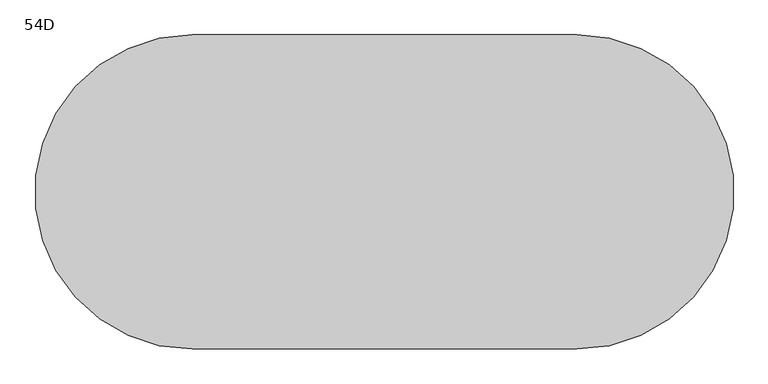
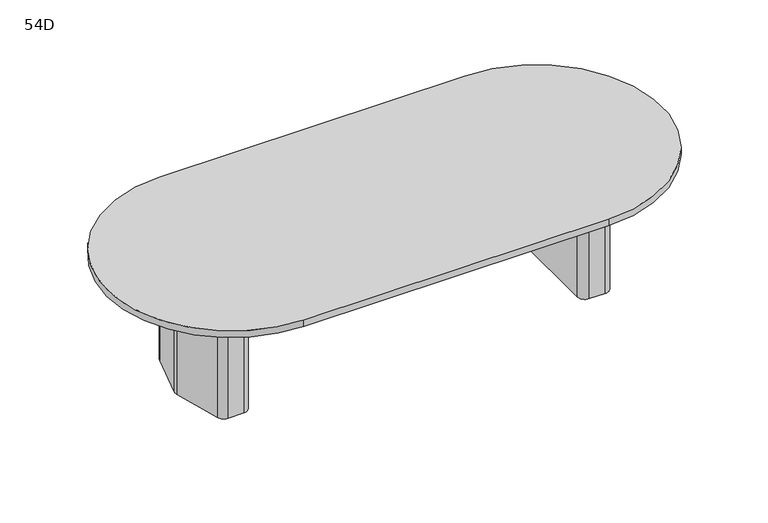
"""IFC4 building model written with IfcOpenShell, lengths in millimetres: furniture geometry, Coalesse_AM_Table_Conference_ETable2_Racetrack_10ft_TwoBase : 54D."""

from ifc_helpers import new_model, si_unit, point, frame, frame_2d, origin, place, context, project, spatial, polyline, circle_curve, trimmed, segment, composite_curve, outline, extrude, source, transform, mapped, element, save
from ifc_brep_helpers import plane_surface, cylinder_surface, revolved_surface, advanced_brep


def furniture_54d_fd6d85c3(model_context):
    return source(origin(), model_context, "Body", "SolidModel", [
        advanced_brep(
        [(1078.124548, 274.2093613, 698.5), (1038.2579246, 304.8, 698.5), (949.325, 304.8, 698.5), (908.05, 263.525, 698.5), (908.05, -263.525, 698.5), (949.325, -304.8, 698.5), (1038.2579246, -304.8, 698.5), (1078.124548, -274.2093613, 698.5), (1148.7503901, -10.6333708, 698.5), (1148.7503901, 10.6333708, 698.5), (946.15, -206.375, 698.5), (946.15, 206.375, 698.5), (971.55, 231.775, 698.5), (1030.5608422, 231.775, 698.5), (1055.095338, 212.9490792, 698.5), (1093.7875, 68.54974, 698.5), (1093.7875, -68.54974, 698.5), (1055.095338, -212.9490792, 698.5), (1030.5608422, -231.775, 698.5), (971.55, -231.775, 698.5), (1078.124548, 274.2093613, 3.175), (1148.7503901, 10.6333708, 3.175), (1148.7503901, -10.6333708, 3.175), (1078.124548, -274.2093613, 3.175), (1038.2579246, -304.8, 3.175), (949.325, -304.8, 3.175), (908.05, -263.525, 3.175), (908.05, 263.525, 3.175), (949.325, 304.8, 3.175), (1038.2579246, 304.8, 3.175), (1067.3625859, 216.2361187, 3.175), (1030.5608422, 244.475, 3.175), (971.55, 244.475, 3.175), (933.45, 206.375, 3.175), (933.45, -206.375, 3.175), (971.55, -244.475, 3.175), (1030.5608422, -244.475, 3.175), (1067.3625859, -216.2361187, 3.175), (1106.4875, -70.2217466, 3.175), (1106.4875, 70.2217466, 3.175), (971.55, -231.775, 3.175), (946.15, -206.375, 3.175), (1030.5608422, -231.775, 3.175), (1055.095338, -212.9490792, 3.175), (1093.7875, -68.54974, 3.175), (1093.7875, 68.54974, 3.175), (1055.095338, 212.9490792, 3.175), (1030.5608422, 231.775, 3.175), (971.55, 231.775, 3.175), (946.15, 206.375, 3.175), (1067.3625859, 216.2361187, 0.0), (1106.4875, 70.2217466, 0.0), (1106.4875, -70.2217466, 0.0), (1067.3625859, -216.2361187, 0.0), (1030.5608422, -244.475, 0.0), (971.55, -244.475, 0.0), (933.45, -206.375, 0.0), (933.45, 206.375, 0.0), (971.55, 244.475, 0.0), (1030.5608422, 244.475, 0.0)],
        [
            (0, 1, circle_curve(frame((1038.2579246, 263.5270004, 698.5), z_axis=(0.0, 0.0, 1.0), x_axis=(-1.0, 0.0, 0.0)), 41.2729996)),
            (1, 2),
            (2, 3, circle_curve(frame((949.325, 263.525, 698.5), z_axis=(0.0, 0.0, 1.0), x_axis=(-1.0, 0.0, 0.0)), 41.275)),
            (3, 4),
            (4, 5, circle_curve(frame((949.325, -263.525, 698.5), z_axis=(0.0, 0.0, 1.0), x_axis=(-1.0, 0.0, 0.0)), 41.275)),
            (5, 6),
            (6, 7, circle_curve(frame((1038.2579246, -263.5270004, 698.5), z_axis=(0.0, 0.0, 1.0), x_axis=(-1.0, 0.0, 0.0)), 41.2729996)),
            (7, 8),
            (8, 9, circle_curve(frame((1109.0665979, 0.0, 698.5), z_axis=(0.0, 0.0, 1.0), x_axis=(-1.0, 0.0, 0.0)), 41.0837187)),
            (9, 0),
            (10, 11),
            (11, 12, circle_curve(frame((971.55, 206.375, 698.5), z_axis=(0.0, 0.0, -1.0), x_axis=(-1.0, 0.0, 0.0)), 25.4)),
            (12, 13),
            (13, 14, circle_curve(frame((1030.5608422, 206.375, 698.5), z_axis=(0.0, 0.0, -1.0), x_axis=(-1.0, 0.0, 0.0)), 25.4)),
            (14, 15),
            (15, 16),
            (16, 17),
            (17, 18, circle_curve(frame((1030.5608422, -206.375, 698.5), z_axis=(0.0, 0.0, -1.0), x_axis=(-1.0, 0.0, 0.0)), 25.4)),
            (18, 19),
            (19, 10, circle_curve(frame((971.55, -206.375, 698.5), z_axis=(0.0, 0.0, -1.0), x_axis=(-1.0, 0.0, 0.0)), 25.4)),
            (20, 21),
            (21, 22, circle_curve(frame((1109.0665979, 0.0, 3.175), z_axis=(0.0, 0.0, -1.0), x_axis=(-1.0, 0.0, 0.0)), 41.0837187)),
            (22, 23),
            (23, 24, circle_curve(frame((1038.2579246, -263.5270004, 3.175), z_axis=(0.0, 0.0, -1.0), x_axis=(-1.0, 0.0, 0.0)), 41.2729996)),
            (24, 25),
            (25, 26, circle_curve(frame((949.325, -263.525, 3.175), z_axis=(0.0, 0.0, -1.0), x_axis=(-1.0, 0.0, 0.0)), 41.275)),
            (26, 27),
            (27, 28, circle_curve(frame((949.325, 263.525, 3.175), z_axis=(0.0, 0.0, -1.0), x_axis=(-1.0, 0.0, 0.0)), 41.275)),
            (28, 29),
            (29, 20, circle_curve(frame((1038.2579246, 263.5270004, 3.175), z_axis=(0.0, 0.0, -1.0), x_axis=(-1.0, 0.0, 0.0)), 41.2729996)),
            (30, 31, circle_curve(frame((1030.5608422, 206.375, 3.175), z_axis=(0.0, 0.0, 1.0), x_axis=(-1.0, 0.0, 0.0)), 38.1)),
            (31, 32),
            (32, 33, circle_curve(frame((971.55, 206.375, 3.175), z_axis=(0.0, 0.0, 1.0), x_axis=(-1.0, 0.0, 0.0)), 38.1)),
            (33, 34),
            (34, 35, circle_curve(frame((971.55, -206.375, 3.175), z_axis=(0.0, 0.0, 1.0), x_axis=(-1.0, 0.0, 0.0)), 38.1)),
            (35, 36),
            (36, 37, circle_curve(frame((1030.5608422, -206.375, 3.175), z_axis=(0.0, 0.0, 1.0), x_axis=(-1.0, 0.0, 0.0)), 38.1)),
            (37, 38),
            (38, 39),
            (39, 30),
            (9, 21),
            (20, 0),
            (8, 22),
            (7, 23),
            (6, 24),
            (5, 25),
            (4, 26),
            (3, 27),
            (2, 28),
            (1, 29),
            (19, 40),
            (40, 41, circle_curve(frame((971.55, -206.375, 3.175), z_axis=(0.0, 0.0, -1.0), x_axis=(-1.0, 0.0, 0.0)), 25.4)),
            (41, 10),
            (18, 42),
            (42, 40),
            (17, 43),
            (43, 42, circle_curve(frame((1030.5608422, -206.375, 3.175), z_axis=(0.0, 0.0, -1.0), x_axis=(-1.0, 0.0, 0.0)), 25.4)),
            (16, 44),
            (44, 43),
            (15, 45),
            (45, 44),
            (14, 46),
            (46, 45),
            (13, 47),
            (47, 46, circle_curve(frame((1030.5608422, 206.375, 3.175), z_axis=(0.0, 0.0, -1.0), x_axis=(-1.0, 0.0, 0.0)), 25.4)),
            (12, 48),
            (48, 47),
            (11, 49),
            (49, 48, circle_curve(frame((971.55, 206.375, 3.175), z_axis=(0.0, 0.0, -1.0), x_axis=(-1.0, 0.0, 0.0)), 25.4)),
            (41, 49),
            (50, 51),
            (51, 52),
            (52, 53),
            (53, 54, circle_curve(frame((1030.5608422, -206.375, 0.0), z_axis=(0.0, 0.0, -1.0), x_axis=(-1.0, 0.0, 0.0)), 38.1)),
            (54, 55),
            (55, 56, circle_curve(frame((971.55, -206.375, 0.0), z_axis=(0.0, 0.0, -1.0), x_axis=(-1.0, 0.0, 0.0)), 38.1)),
            (56, 57),
            (57, 58, circle_curve(frame((971.55, 206.375, 0.0), z_axis=(0.0, 0.0, -1.0), x_axis=(-1.0, 0.0, 0.0)), 38.1)),
            (58, 59),
            (59, 50, circle_curve(frame((1030.5608422, 206.375, 0.0), z_axis=(0.0, 0.0, -1.0), x_axis=(-1.0, 0.0, 0.0)), 38.1)),
            (50, 30),
            (39, 51),
            (38, 52),
            (37, 53),
            (36, 54),
            (35, 55),
            (34, 56),
            (33, 57),
            (32, 58),
            (31, 59),
        ],
        [
            plane_surface(frame((1148.7374275, 10.6817473, 698.5), z_axis=(0.0, 0.0, 1.0000000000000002), x_axis=(0.25882201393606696, -0.9659250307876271, 0.0))),
            plane_surface(frame((1148.7374275, 10.6817473, 3.175), z_axis=(0.0, 0.0, -1.0000000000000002), x_axis=(-0.25882201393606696, 0.9659250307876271, 0.0))),
            plane_surface(frame((1078.124548, 274.2093613, 698.5), z_axis=(0.9659250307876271, 0.25882201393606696, 0.0), x_axis=(0.0, 0.0, -1.0))),
            cylinder_surface(frame((1109.0665979, 0.0, 3.175), z_axis=(0.0, 0.0, 1.0), x_axis=(-1.0, 0.0, 0.0)), 41.0837187),
            plane_surface(frame((1148.7503901, -10.6333708, 698.5), z_axis=(0.9659250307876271, -0.2588220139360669, 0.0), x_axis=(0.0, 0.0, -1.0))),
            cylinder_surface(frame((1038.2579246, -263.5270004, 3.175), z_axis=(0.0, 0.0, 1.0), x_axis=(-1.0, 0.0, 0.0)), 41.2729996),
            plane_surface(frame((1038.2579246, -304.8, 698.5), z_axis=(0.0, -1.0, 0.0), x_axis=(0.0, 0.0, -1.0))),
            cylinder_surface(frame((949.325, -263.525, 3.175), z_axis=(0.0, 0.0, 1.0), x_axis=(-1.0, 0.0, 0.0)), 41.275),
            plane_surface(frame((908.05, -263.525, 698.5), z_axis=(-1.0, 0.0, 0.0), x_axis=(0.0, 0.0, -1.0))),
            cylinder_surface(frame((949.325, 263.525, 3.175), z_axis=(0.0, 0.0, 1.0), x_axis=(-1.0, 0.0, 0.0)), 41.275),
            plane_surface(frame((949.325, 304.8, 698.5), z_axis=(0.0, 1.0, 0.0), x_axis=(0.0, 0.0, -1.0))),
            cylinder_surface(frame((1038.2579246, 263.5270004, 3.175), z_axis=(0.0, 0.0, 1.0), x_axis=(-1.0, 0.0, 0.0)), 41.2729996),
            revolved_surface(polyline([(946.15, -206.375, 3.175), (946.15, -206.375, 698.5)]), (971.55, -206.375, 0.0), (0.0, 0.0, -1.0)),
            plane_surface(frame((971.55, -231.775, 698.5), z_axis=(0.0, 1.0, 0.0), x_axis=(0.0, 0.0, -1.0))),
            revolved_surface(polyline([(1005.1608422, -206.375, 3.175), (1005.1608422, -206.375, 698.5)]), (1030.5608422, -206.375, 0.0), (0.0, 0.0, -1.0)),
            plane_surface(frame((1055.095338, -212.9490792, 698.5), z_axis=(-0.9659250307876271, 0.2588220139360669, 0.0), x_axis=(0.0, 0.0, -1.0))),
            plane_surface(frame((1093.7875, -68.54974, 698.5), z_axis=(-1.0, 0.0, 0.0), x_axis=(0.0, 0.0, -1.0))),
            plane_surface(frame((1093.7875, 68.54974, 698.5), z_axis=(-0.9659250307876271, -0.25882201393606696, 0.0), x_axis=(0.0, 0.0, -1.0))),
            revolved_surface(polyline([(1005.1608422, 206.375, 3.175), (1005.1608422, 206.375, 698.5)]), (1030.5608422, 206.375, 0.0), (0.0, 0.0, -1.0)),
            plane_surface(frame((1030.5608422, 231.775, 698.5), z_axis=(0.0, -1.0, 0.0), x_axis=(0.0, 0.0, -1.0))),
            revolved_surface(polyline([(946.15, 206.375, 3.175), (946.15, 206.375, 698.5)]), (971.55, 206.375, 0.0), (0.0, 0.0, -1.0)),
            plane_surface(frame((946.15, 206.375, 698.5), z_axis=(1.0, 0.0, 0.0), x_axis=(0.0, 0.0, -1.0))),
            plane_surface(frame((1106.0547479, 71.8367796, 3.175), z_axis=(0.0, 0.0, 1.0), x_axis=(0.25882201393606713, -0.965925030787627, 0.0))),
            plane_surface(frame((1106.0547479, 71.8367796, 0.0), z_axis=(0.0, 0.0, -1.0), x_axis=(-0.25882201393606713, 0.965925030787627, 0.0))),
            plane_surface(frame((1067.3625859, 216.2361187, 3.175), z_axis=(0.965925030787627, 0.25882201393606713, 0.0), x_axis=(0.0, 0.0, -1.0))),
            plane_surface(frame((1106.4875, 70.2217466, 3.175), z_axis=(1.0, 0.0, 0.0), x_axis=(0.0, 0.0, -1.0))),
            plane_surface(frame((1106.4875, -70.2217466, 3.175), z_axis=(0.9659250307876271, -0.2588220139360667, 0.0), x_axis=(0.0, 0.0, -1.0))),
            cylinder_surface(frame((1030.5608422, -206.375, 0.0), z_axis=(0.0, 0.0, 1.0), x_axis=(-1.0, 0.0, 0.0)), 38.1),
            plane_surface(frame((1030.5608422, -244.475, 3.175), z_axis=(0.0, -1.0, 0.0), x_axis=(0.0, 0.0, -1.0))),
            cylinder_surface(frame((971.55, -206.375, 0.0), z_axis=(0.0, 0.0, 1.0), x_axis=(-1.0, 0.0, 0.0)), 38.1),
            plane_surface(frame((933.45, -206.375, 3.175), z_axis=(-1.0, 0.0, 0.0), x_axis=(0.0, 0.0, -1.0))),
            cylinder_surface(frame((971.55, 206.375, 0.0), z_axis=(0.0, 0.0, 1.0), x_axis=(-1.0, 0.0, 0.0)), 38.1),
            plane_surface(frame((971.55, 244.475, 3.175), z_axis=(0.0, 1.0, 0.0), x_axis=(0.0, 0.0, -1.0))),
            cylinder_surface(frame((1030.5608422, 206.375, 0.0), z_axis=(0.0, 0.0, 1.0), x_axis=(-1.0, 0.0, 0.0)), 38.1),
        ],
        [
            (0, [[1, 2, 3, 4, 5, 6, 7, 8, 9, 10], [11, 12, 13, 14, 15, 16, 17, 18, 19, 20]]),
            (1, [[21, 22, 23, 24, 25, 26, 27, 28, 29, 30], [31, 32, 33, 34, 35, 36, 37, 38, 39, 40]]),
            (2, [[41, -21, 42, -10]]),
            (3, [[43, -22, -41, -9]]),
            (4, [[44, -23, -43, -8]]),
            (5, [[45, -24, -44, -7]]),
            (6, [[46, -25, -45, -6]]),
            (7, [[47, -26, -46, -5]]),
            (8, [[48, -27, -47, -4]]),
            (9, [[49, -28, -48, -3]]),
            (10, [[50, -29, -49, -2]]),
            (11, [[-42, -30, -50, -1]]),
            (12, [[51, 52, 53, -20]]),
            (13, [[54, 55, -51, -19]]),
            (14, [[56, 57, -54, -18]]),
            (15, [[58, 59, -56, -17]]),
            (16, [[60, 61, -58, -16]]),
            (17, [[62, 63, -60, -15]]),
            (18, [[64, 65, -62, -14]]),
            (19, [[66, 67, -64, -13]]),
            (20, [[68, 69, -66, -12]]),
            (21, [[-53, 70, -68, -11]]),
            (22, [[-55, -57, -59, -61, -63, -65, -67, -69, -70, -52]]),
            (23, [[71, 72, 73, 74, 75, 76, 77, 78, 79, 80]]),
            (24, [[81, -40, 82, -71]]),
            (25, [[-82, -39, 83, -72]]),
            (26, [[-83, -38, 84, -73]]),
            (27, [[-84, -37, 85, -74]]),
            (28, [[-85, -36, 86, -75]]),
            (29, [[-86, -35, 87, -76]]),
            (30, [[-87, -34, 88, -77]]),
            (31, [[-88, -33, 89, -78]]),
            (32, [[-89, -32, 90, -79]]),
            (33, [[-90, -31, -81, -80]]),
        ],
    ),
        advanced_brep(
        [(-1076.537048, 274.2093613, 698.5), (-1147.1628901, 10.6333708, 698.5), (-1147.1628901, -10.6333708, 698.5), (-1076.537048, -274.2093613, 698.5), (-1036.6704246, -304.8, 698.5), (-947.7375, -304.8, 698.5), (-906.4625, -263.525, 698.5), (-906.4625, 263.525, 698.5), (-947.7375, 304.8, 698.5), (-1036.6704246, 304.8, 698.5), (-944.5625, -206.375, 698.5), (-969.9625, -231.775, 698.5), (-1028.9733422, -231.775, 698.5), (-1053.507838, -212.9490792, 698.5), (-1092.2, -68.54974, 698.5), (-1092.2, 68.54974, 698.5), (-1053.507838, 212.9490792, 698.5), (-1028.9733422, 231.775, 698.5), (-969.9625, 231.775, 698.5), (-944.5625, 206.375, 698.5), (-1076.537048, 274.2093613, 3.175), (-1036.6704246, 304.8, 3.175), (-947.7375, 304.8, 3.175), (-906.4625, 263.525, 3.175), (-906.4625, -263.525, 3.175), (-947.7375, -304.8, 3.175), (-1036.6704246, -304.8, 3.175), (-1076.537048, -274.2093613, 3.175), (-1147.1628901, -10.6333708, 3.175), (-1147.1628901, 10.6333708, 3.175), (-1065.7750859, 216.2361187, 3.175), (-1104.9, 70.2217466, 3.175), (-1104.9, -70.2217466, 3.175), (-1065.7750859, -216.2361187, 3.175), (-1028.9733422, -244.475, 3.175), (-969.9625, -244.475, 3.175), (-931.8625, -206.375, 3.175), (-931.8625, 206.375, 3.175), (-969.9625, 244.475, 3.175), (-1028.9733422, 244.475, 3.175), (-944.5625, -206.375, 3.175), (-969.9625, -231.775, 3.175), (-1028.9733422, -231.775, 3.175), (-1053.507838, -212.9490792, 3.175), (-1092.2, -68.54974, 3.175), (-1092.2, 68.54974, 3.175), (-1053.507838, 212.9490792, 3.175), (-1028.9733422, 231.775, 3.175), (-969.9625, 231.775, 3.175), (-944.5625, 206.375, 3.175), (-1065.7750859, 216.2361187, 0.0), (-1028.9733422, 244.475, 0.0), (-969.9625, 244.475, 0.0), (-931.8625, 206.375, 0.0), (-931.8625, -206.375, 0.0), (-969.9625, -244.475, 0.0), (-1028.9733422, -244.475, 0.0), (-1065.7750859, -216.2361187, 0.0), (-1104.9, -70.2217466, 0.0), (-1104.9, 70.2217466, 0.0)],
        [
            (0, 1),
            (1, 2, circle_curve(frame((-1107.4790979, 0.0, 698.5), z_axis=(0.0, 0.0, 1.0), x_axis=(1.0, 0.0, 0.0)), 41.0837187)),
            (2, 3),
            (3, 4, circle_curve(frame((-1036.6704246, -263.5270004, 698.5), z_axis=(0.0, 0.0, 1.0), x_axis=(1.0, 0.0, 0.0)), 41.2729996)),
            (4, 5),
            (5, 6, circle_curve(frame((-947.7375, -263.525, 698.5), z_axis=(0.0, 0.0, 1.0), x_axis=(1.0, 0.0, 0.0)), 41.275)),
            (6, 7),
            (7, 8, circle_curve(frame((-947.7375, 263.525, 698.5), z_axis=(0.0, 0.0, 1.0), x_axis=(1.0, 0.0, 0.0)), 41.275)),
            (8, 9),
            (9, 0, circle_curve(frame((-1036.6704246, 263.5270004, 698.5), z_axis=(0.0, 0.0, 1.0), x_axis=(1.0, 0.0, 0.0)), 41.2729996)),
            (10, 11, circle_curve(frame((-969.9625, -206.375, 698.5), z_axis=(0.0, 0.0, -1.0), x_axis=(1.0, 0.0, 0.0)), 25.4)),
            (11, 12),
            (12, 13, circle_curve(frame((-1028.9733422, -206.375, 698.5), z_axis=(0.0, 0.0, -1.0), x_axis=(1.0, 0.0, 0.0)), 25.4)),
            (13, 14),
            (14, 15),
            (15, 16),
            (16, 17, circle_curve(frame((-1028.9733422, 206.375, 698.5), z_axis=(0.0, 0.0, -1.0), x_axis=(1.0, 0.0, 0.0)), 25.4)),
            (17, 18),
            (18, 19, circle_curve(frame((-969.9625, 206.375, 698.5), z_axis=(0.0, 0.0, -1.0), x_axis=(1.0, 0.0, 0.0)), 25.4)),
            (19, 10),
            (20, 21, circle_curve(frame((-1036.6704246, 263.5270004, 3.175), z_axis=(0.0, 0.0, -1.0), x_axis=(1.0, 0.0, 0.0)), 41.2729996)),
            (21, 22),
            (22, 23, circle_curve(frame((-947.7375, 263.525, 3.175), z_axis=(0.0, 0.0, -1.0), x_axis=(1.0, 0.0, 0.0)), 41.275)),
            (23, 24),
            (24, 25, circle_curve(frame((-947.7375, -263.525, 3.175), z_axis=(0.0, 0.0, -1.0), x_axis=(1.0, 0.0, 0.0)), 41.275)),
            (25, 26),
            (26, 27, circle_curve(frame((-1036.6704246, -263.5270004, 3.175), z_axis=(0.0, 0.0, -1.0), x_axis=(1.0, 0.0, 0.0)), 41.2729996)),
            (27, 28),
            (28, 29, circle_curve(frame((-1107.4790979, 0.0, 3.175), z_axis=(0.0, 0.0, -1.0), x_axis=(1.0, 0.0, 0.0)), 41.0837187)),
            (29, 20),
            (30, 31),
            (31, 32),
            (32, 33),
            (33, 34, circle_curve(frame((-1028.9733422, -206.375, 3.175), z_axis=(0.0, 0.0, 1.0), x_axis=(1.0, 0.0, 0.0)), 38.1)),
            (34, 35),
            (35, 36, circle_curve(frame((-969.9625, -206.375, 3.175), z_axis=(0.0, 0.0, 1.0), x_axis=(1.0, 0.0, 0.0)), 38.1)),
            (36, 37),
            (37, 38, circle_curve(frame((-969.9625, 206.375, 3.175), z_axis=(0.0, 0.0, 1.0), x_axis=(1.0, 0.0, 0.0)), 38.1)),
            (38, 39),
            (39, 30, circle_curve(frame((-1028.9733422, 206.375, 3.175), z_axis=(0.0, 0.0, 1.0), x_axis=(1.0, 0.0, 0.0)), 38.1)),
            (0, 20),
            (29, 1),
            (28, 2),
            (27, 3),
            (26, 4),
            (25, 5),
            (24, 6),
            (23, 7),
            (22, 8),
            (21, 9),
            (10, 40),
            (40, 41, circle_curve(frame((-969.9625, -206.375, 3.175), z_axis=(0.0, 0.0, -1.0), x_axis=(1.0, 0.0, 0.0)), 25.4)),
            (41, 11),
            (41, 42),
            (42, 12),
            (42, 43, circle_curve(frame((-1028.9733422, -206.375, 3.175), z_axis=(0.0, 0.0, -1.0), x_axis=(1.0, 0.0, 0.0)), 25.4)),
            (43, 13),
            (43, 44),
            (44, 14),
            (44, 45),
            (45, 15),
            (45, 46),
            (46, 16),
            (46, 47, circle_curve(frame((-1028.9733422, 206.375, 3.175), z_axis=(0.0, 0.0, -1.0), x_axis=(1.0, 0.0, 0.0)), 25.4)),
            (47, 17),
            (47, 48),
            (48, 18),
            (48, 49, circle_curve(frame((-969.9625, 206.375, 3.175), z_axis=(0.0, 0.0, -1.0), x_axis=(1.0, 0.0, 0.0)), 25.4)),
            (49, 19),
            (49, 40),
            (50, 51, circle_curve(frame((-1028.9733422, 206.375, 0.0), z_axis=(0.0, 0.0, -1.0), x_axis=(1.0, 0.0, 0.0)), 38.1)),
            (51, 52),
            (52, 53, circle_curve(frame((-969.9625, 206.375, 0.0), z_axis=(0.0, 0.0, -1.0), x_axis=(1.0, 0.0, 0.0)), 38.1)),
            (53, 54),
            (54, 55, circle_curve(frame((-969.9625, -206.375, 0.0), z_axis=(0.0, 0.0, -1.0), x_axis=(1.0, 0.0, 0.0)), 38.1)),
            (55, 56),
            (56, 57, circle_curve(frame((-1028.9733422, -206.375, 0.0), z_axis=(0.0, 0.0, -1.0), x_axis=(1.0, 0.0, 0.0)), 38.1)),
            (57, 58),
            (58, 59),
            (59, 50),
            (59, 31),
            (30, 50),
            (58, 32),
            (57, 33),
            (56, 34),
            (55, 35),
            (54, 36),
            (53, 37),
            (52, 38),
            (51, 39),
        ],
        [
            plane_surface(frame((-1147.1499275, 10.6817473, 698.5), z_axis=(0.0, 0.0, 1.0000000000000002), x_axis=(-0.25882201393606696, -0.9659250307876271, 0.0))),
            plane_surface(frame((-1147.1499275, 10.6817473, 3.175), z_axis=(0.0, 0.0, -1.0000000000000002), x_axis=(0.25882201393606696, 0.9659250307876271, 0.0))),
            plane_surface(frame((-1076.537048, 274.2093613, 698.5), z_axis=(-0.9659250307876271, 0.25882201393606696, 0.0), x_axis=(0.0, 0.0, -1.0))),
            cylinder_surface(frame((-1107.4790979, 0.0, 3.175), z_axis=(0.0, 0.0, 1.0), x_axis=(1.0, 0.0, 0.0)), 41.0837187),
            plane_surface(frame((-1147.1628901, -10.6333708, 698.5), z_axis=(-0.9659250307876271, -0.2588220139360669, 0.0), x_axis=(0.0, 0.0, -1.0))),
            cylinder_surface(frame((-1036.6704246, -263.5270004, 3.175), z_axis=(0.0, 0.0, 1.0), x_axis=(1.0, 0.0, 0.0)), 41.2729996),
            plane_surface(frame((-1036.6704246, -304.8, 698.5), z_axis=(0.0, -1.0, 0.0), x_axis=(0.0, 0.0, -1.0))),
            cylinder_surface(frame((-947.7375, -263.525, 3.175), z_axis=(0.0, 0.0, 1.0), x_axis=(1.0, 0.0, 0.0)), 41.275),
            plane_surface(frame((-906.4625, -263.525, 698.5), z_axis=(1.0, 0.0, 0.0), x_axis=(0.0, 0.0, -1.0))),
            cylinder_surface(frame((-947.7375, 263.525, 3.175), z_axis=(0.0, 0.0, 1.0), x_axis=(1.0, 0.0, 0.0)), 41.275),
            plane_surface(frame((-947.7375, 304.8, 698.5), z_axis=(0.0, 1.0, 0.0), x_axis=(0.0, 0.0, -1.0))),
            cylinder_surface(frame((-1036.6704246, 263.5270004, 3.175), z_axis=(0.0, 0.0, 1.0), x_axis=(1.0, 0.0, 0.0)), 41.2729996),
            revolved_surface(polyline([(-944.5625, -206.375, 3.175), (-944.5625, -206.375, 698.5)]), (-969.9625, -206.375, 0.0), (0.0, 0.0, -1.0)),
            plane_surface(frame((-969.9625, -231.775, 698.5), z_axis=(0.0, 1.0, 0.0), x_axis=(0.0, 0.0, -1.0))),
            revolved_surface(polyline([(-1003.5733422, -206.375, 3.175), (-1003.5733422, -206.375, 698.5)]), (-1028.9733422, -206.375, 0.0), (0.0, 0.0, -1.0)),
            plane_surface(frame((-1053.507838, -212.9490792, 698.5), z_axis=(0.9659250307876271, 0.2588220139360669, 0.0), x_axis=(0.0, 0.0, -1.0))),
            plane_surface(frame((-1092.2, -68.54974, 698.5), z_axis=(1.0, 0.0, 0.0), x_axis=(0.0, 0.0, -1.0))),
            plane_surface(frame((-1092.2, 68.54974, 698.5), z_axis=(0.9659250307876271, -0.25882201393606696, 0.0), x_axis=(0.0, 0.0, -1.0))),
            revolved_surface(polyline([(-1003.5733422, 206.375, 3.175), (-1003.5733422, 206.375, 698.5)]), (-1028.9733422, 206.375, 0.0), (0.0, 0.0, -1.0)),
            plane_surface(frame((-1028.9733422, 231.775, 698.5), z_axis=(0.0, -1.0, 0.0), x_axis=(0.0, 0.0, -1.0))),
            revolved_surface(polyline([(-944.5625, 206.375, 3.175), (-944.5625, 206.375, 698.5)]), (-969.9625, 206.375, 0.0), (0.0, 0.0, -1.0)),
            plane_surface(frame((-944.5625, 206.375, 698.5), z_axis=(-1.0, 0.0, 0.0), x_axis=(0.0, 0.0, -1.0))),
            plane_surface(frame((-1104.4672479, 71.8367796, 3.175), z_axis=(0.0, 0.0, 1.0), x_axis=(-0.25882201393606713, -0.965925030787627, 0.0))),
            plane_surface(frame((-1104.4672479, 71.8367796, 0.0), z_axis=(0.0, 0.0, -1.0), x_axis=(0.25882201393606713, 0.965925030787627, 0.0))),
            plane_surface(frame((-1065.7750859, 216.2361187, 3.175), z_axis=(-0.965925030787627, 0.25882201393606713, 0.0), x_axis=(0.0, 0.0, -1.0))),
            plane_surface(frame((-1104.9, 70.2217466, 3.175), z_axis=(-1.0, 0.0, 0.0), x_axis=(0.0, 0.0, -1.0))),
            plane_surface(frame((-1104.9, -70.2217466, 3.175), z_axis=(-0.9659250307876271, -0.2588220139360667, 0.0), x_axis=(0.0, 0.0, -1.0))),
            cylinder_surface(frame((-1028.9733422, -206.375, 0.0), z_axis=(0.0, 0.0, 1.0), x_axis=(1.0, 0.0, 0.0)), 38.1),
            plane_surface(frame((-1028.9733422, -244.475, 3.175), z_axis=(0.0, -1.0, 0.0), x_axis=(0.0, 0.0, -1.0))),
            cylinder_surface(frame((-969.9625, -206.375, 0.0), z_axis=(0.0, 0.0, 1.0), x_axis=(1.0, 0.0, 0.0)), 38.1),
            plane_surface(frame((-931.8625, -206.375, 3.175), z_axis=(1.0, 0.0, 0.0), x_axis=(0.0, 0.0, -1.0))),
            cylinder_surface(frame((-969.9625, 206.375, 0.0), z_axis=(0.0, 0.0, 1.0), x_axis=(1.0, 0.0, 0.0)), 38.1),
            plane_surface(frame((-969.9625, 244.475, 3.175), z_axis=(0.0, 1.0, 0.0), x_axis=(0.0, 0.0, -1.0))),
            cylinder_surface(frame((-1028.9733422, 206.375, 0.0), z_axis=(0.0, 0.0, 1.0), x_axis=(1.0, 0.0, 0.0)), 38.1),
        ],
        [
            (0, [[1, 2, 3, 4, 5, 6, 7, 8, 9, 10], [11, 12, 13, 14, 15, 16, 17, 18, 19, 20]]),
            (1, [[21, 22, 23, 24, 25, 26, 27, 28, 29, 30], [31, 32, 33, 34, 35, 36, 37, 38, 39, 40]]),
            (2, [[-1, 41, -30, 42]]),
            (3, [[-2, -42, -29, 43]]),
            (4, [[-3, -43, -28, 44]]),
            (5, [[-4, -44, -27, 45]]),
            (6, [[-5, -45, -26, 46]]),
            (7, [[-6, -46, -25, 47]]),
            (8, [[-7, -47, -24, 48]]),
            (9, [[-8, -48, -23, 49]]),
            (10, [[-9, -49, -22, 50]]),
            (11, [[-10, -50, -21, -41]]),
            (12, [[-11, 51, 52, 53]]),
            (13, [[-12, -53, 54, 55]]),
            (14, [[-13, -55, 56, 57]]),
            (15, [[-14, -57, 58, 59]]),
            (16, [[-15, -59, 60, 61]]),
            (17, [[-16, -61, 62, 63]]),
            (18, [[-17, -63, 64, 65]]),
            (19, [[-18, -65, 66, 67]]),
            (20, [[-19, -67, 68, 69]]),
            (21, [[-20, -69, 70, -51]]),
            (22, [[-52, -70, -68, -66, -64, -62, -60, -58, -56, -54]]),
            (23, [[71, 72, 73, 74, 75, 76, 77, 78, 79, 80]]),
            (24, [[-80, 81, -31, 82]]),
            (25, [[-79, 83, -32, -81]]),
            (26, [[-78, 84, -33, -83]]),
            (27, [[-77, 85, -34, -84]]),
            (28, [[-76, 86, -35, -85]]),
            (29, [[-75, 87, -36, -86]]),
            (30, [[-74, 88, -37, -87]]),
            (31, [[-73, 89, -38, -88]]),
            (32, [[-72, 90, -39, -89]]),
            (33, [[-71, -82, -40, -90]]),
        ],
    ),
        extrude(outline(polyline([(96.8375, 698.5), (103.1875, 698.5), (103.1875, 476.25), (-103.1875, 476.25), (-103.1875, 698.5), (-96.8375, 698.5), (-96.8375, 482.6), (96.8375, 482.6), (96.8375, 698.5)])), frame((-906.4625, 0.0, 0.0), z_axis=(1.0, 0.0, 0.0), x_axis=(0.0, 1.0, 0.0)), (0.0, 0.0, 1.0), 1814.5125),
        extrude(outline(composite_curve([segment(trimmed(circle_curve(frame_2d((-838.2, 0.0)), 685.8), [point((-838.2, -685.8))], [point((-838.2, 685.8))], False, "CARTESIAN"), True, "CONTINUOUS"), segment(polyline([(-838.2, 685.8), (838.2, 685.8)]), True, "CONTINUOUS"), segment(trimmed(circle_curve(frame_2d((838.2, 0.0)), 685.8), [point((838.2, 685.8))], [point((838.2, -685.8))], False, "CARTESIAN"), True, "CONTINUOUS"), segment(polyline([(838.2, -685.8), (-838.2, -685.8)]), True, "CONTINUOUS")], self_intersect=False)), frame((0.0, 0.0, 698.5), z_axis=(0.0, 0.0, 1.0), x_axis=(1.0, 0.0, 0.0)), (0.0, 0.0, 1.0), 38.1),
    ])


if __name__ == "__main__":
    model = new_model("IFC4")
    model_context = context("Model", 3, world=origin())
    ifc_project = project(units=[si_unit("LENGTHUNIT", "METRE", prefix="MILLI")], contexts=[model_context])
    site = spatial("IfcSite", under=ifc_project)
    building = spatial("IfcBuilding", under=site)
    placement = place(None, origin())
    furniture_54d_shape = furniture_54d_fd6d85c3(model_context)
    element("IfcFurniture", 1, ObjectType="Coalesse_AM_Table_Conference_ETable2_Racetrack_10ft_TwoBase : 54D", at=placement, inside=building, context=model_context, shape_type="MappedRepresentation", body=[
        mapped(furniture_54d_shape, transform((0.0, 0.0, 0.0), x_axis=(1.0, 0.0, 0.0), y_axis=(0.0, 1.0, 0.0), z_axis=(0.0, 0.0, 1.0))),
    ])
    save(model, "model.ifc")
